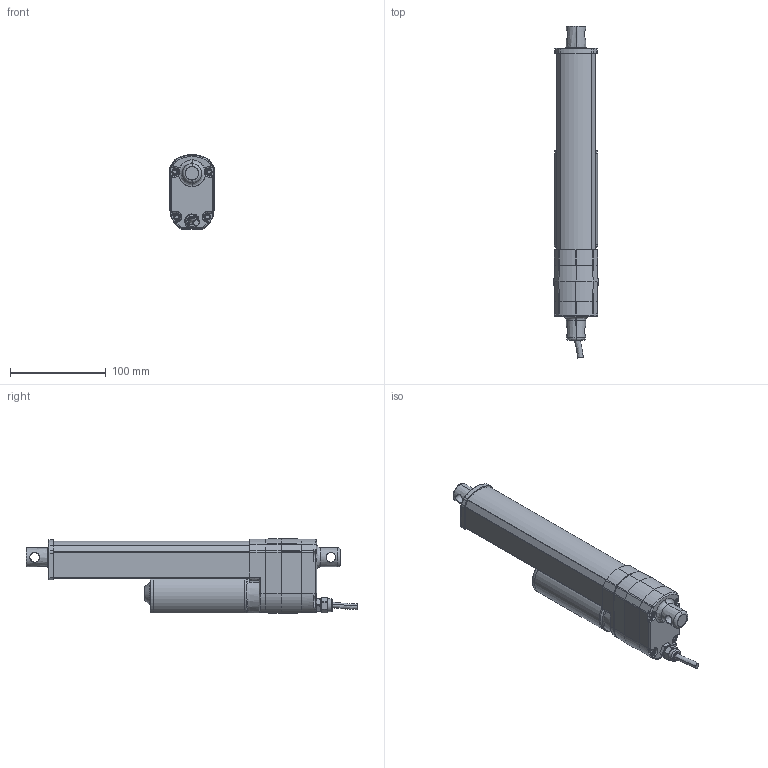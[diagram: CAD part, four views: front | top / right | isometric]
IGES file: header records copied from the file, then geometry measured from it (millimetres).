
Start section: SolidWorks IGES file using analytic representation for surfaces
Bounding box: 46.12 x 346.19 x 78.12 mm (x, y, z)
Surface area: 97583.2 mm2 (no closed solid volume)
Topology: 0 solids, 0 shells, 408 faces, 4807 edges, 4807 vertices
Faces by surface type: revolution 228, bspline 180
